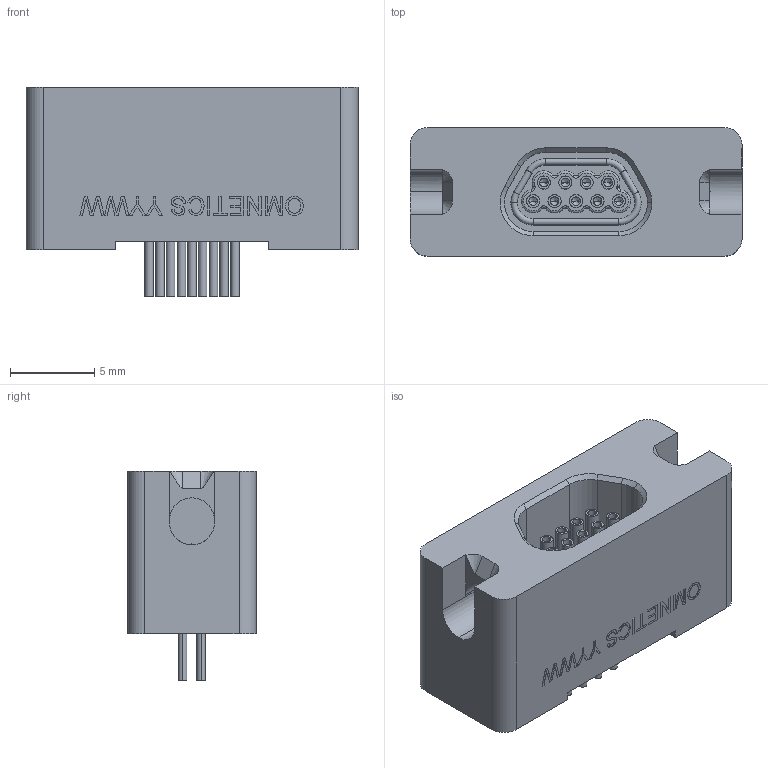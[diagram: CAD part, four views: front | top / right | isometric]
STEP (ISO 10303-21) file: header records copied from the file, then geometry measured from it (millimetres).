
FILE_DESCRIPTION (( 'STEP AP214' ), '1' );
FILE_NAME ('A99550-009 REV A.STEP', '2015-09-03T15:46:09', ( '' ), ( '' ), 'SwSTEP 2.0', 'SolidWorks 2015', '' );
FILE_SCHEMA (( 'AUTOMOTIVE_DESIGN' ));
Length unit declared in the file: inch
Products named in the file (1): A99550-009 REV A
Bounding box: 19.68 x 7.63 x 12.45 mm (x, y, z)
Volume: 1162.3 mm3; surface area: 1387.6 mm2
Topology: 1 solids, 4 shells, 534 faces, 1348 edges, 856 vertices
Faces by surface type: plane 218, cylinder 185, bspline 56, torus 44, cone 31
Entity records: 21149 total; most frequent: CARTESIAN_POINT 8195, ORIENTED_EDGE 2648, DIRECTION 2501, EDGE_CURVE 1324, AXIS2_PLACEMENT_3D 888, VERTEX_POINT 856, LINE 725, VECTOR 725
